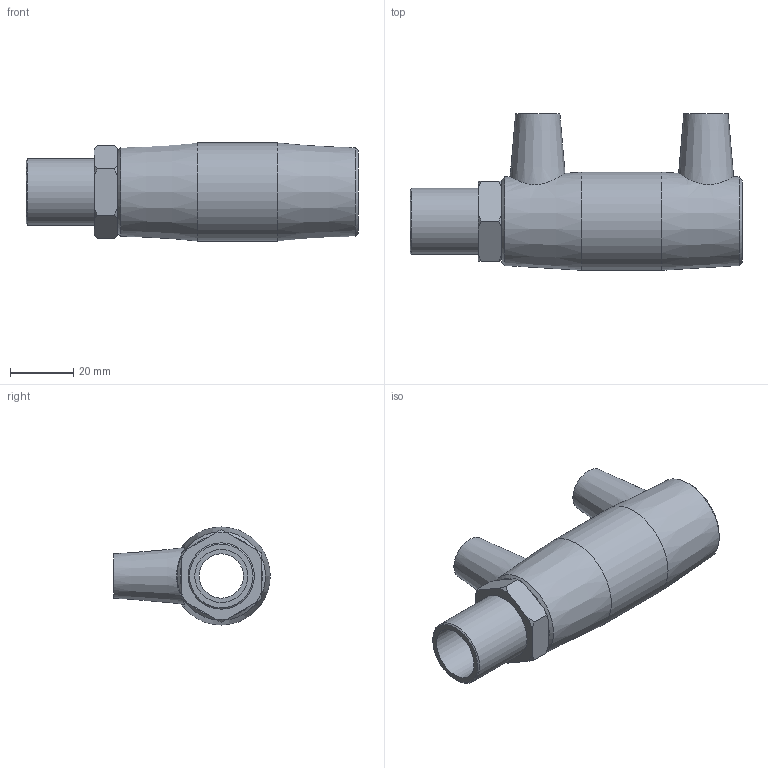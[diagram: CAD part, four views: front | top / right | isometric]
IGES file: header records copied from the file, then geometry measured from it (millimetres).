
Global section: file name: 492104020005.ipt; native system: Autodesk Inventor 2015; preprocessor: unknown; author: KIM; date: 20200202.122247; units: millimetre
Bounding box: 105 x 49.5 x 31 mm (x, y, z)
Volume: 46890.4 mm3; surface area: 19889.2 mm2
Topology: 1 solids, 2 shells, 54 faces, 129 edges, 88 vertices
Faces by surface type: plane 21, cone 19, revolution 8, cylinder 6
Full cylindrical faces by diameter (mm): 4 x2, 20 x2, 20.955 x1, 31 x1
